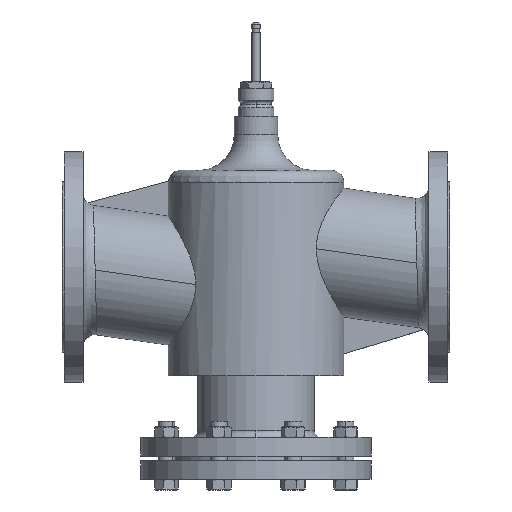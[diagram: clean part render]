
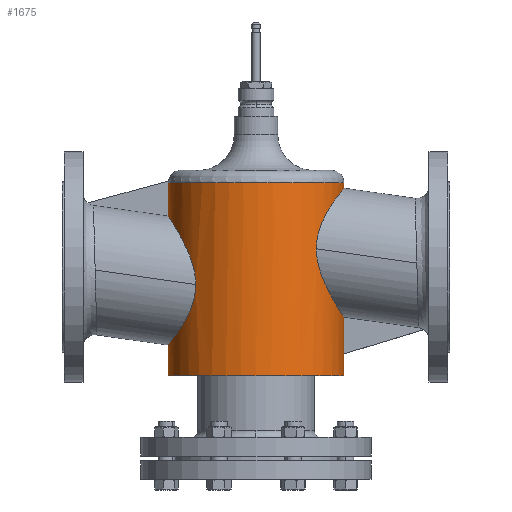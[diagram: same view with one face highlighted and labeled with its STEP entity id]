
A CAD part, left-side view. The second image highlights one B-rep face of the part: STEP entity #1675.
In plain terms, the highlighted cylindrical face has radius 108.672 mm (diameter 217.344 mm), a partial arc.
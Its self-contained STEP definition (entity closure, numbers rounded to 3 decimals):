
#477=FACE_OUTER_BOUND('',#2414,.T.);
#854=CYLINDRICAL_SURFACE('',#7137,108.672);
#981=ELLIPSE('',#7134,113.596,108.672);
#993=B_SPLINE_CURVE_WITH_KNOTS('',3,(#10041,#10042,#10043,#10044,#10045,
#10046,#10047,#10048,#10049,#10050,#10051,#10052,#10053,#10054,#10055,#10056),
 .UNSPECIFIED.,.F.,.F.,(4,2,2,2,2,2,2,4),(0.,0.125,0.25,0.375,
0.5,0.75,0.875,1.),.UNSPECIFIED.);
#997=B_SPLINE_CURVE_WITH_KNOTS('',3,(#10107,#10108,#10109,#10110,#10111,
#10112,#10113,#10114,#10115,#10116,#10117,#10118,#10119,#10120,#10121,#10122,
#10123,#10124),.UNSPECIFIED.,.F.,.F.,(4,2,2,2,2,2,2,2,4),(0.,0.125,0.25,
0.375,0.5,0.625,0.75,0.875,1.),.UNSPECIFIED.);
#1011=B_SPLINE_CURVE_WITH_KNOTS('',3,(#10818,#10819,#10820,#10821,#10822,
#10823,#10824,#10825,#10826,#10827,#10828,#10829,#10830,#10831,#10832,#10833),
 .UNSPECIFIED.,.F.,.F.,(4,2,2,2,2,2,2,4),(0.,0.125,0.25,0.375,0.5,0.75,0.875,
1.),.UNSPECIFIED.);
#1012=B_SPLINE_CURVE_WITH_KNOTS('',3,(#10839,#10840,#10841,#10842,#10843,
#10844,#10845,#10846,#10847,#10848,#10849,#10850,#10851,#10852,#10853,#10854,
#10855,#10856),.UNSPECIFIED.,.F.,.F.,(4,2,2,2,2,2,2,2,4),(0.,0.125,0.25,
0.375,0.5,0.625,0.75,0.875,1.),.UNSPECIFIED.);
#1020=LINE('',#9919,#1339);
#1022=LINE('',#9961,#1341);
#1024=LINE('',#10003,#1343);
#1034=LINE('',#10478,#1353);
#1038=LINE('',#10869,#1357);
#1339=VECTOR('',#7929,1.);
#1341=VECTOR('',#7933,1.);
#1343=VECTOR('',#7937,1.);
#1353=VECTOR('',#7971,1.);
#1357=VECTOR('',#7995,1.);
#1675=ADVANCED_FACE('',(#477),#854,.T.);
#2414=EDGE_LOOP('',(#3034,#3035,#3036,#3037,#3038,#3039,#3040,#3041,#3042,
#3043,#3044,#3045));
#3034=ORIENTED_EDGE('',*,*,#5694,.T.);
#3035=ORIENTED_EDGE('',*,*,#5683,.F.);
#3036=ORIENTED_EDGE('',*,*,#5704,.T.);
#3037=ORIENTED_EDGE('',*,*,#5749,.F.);
#3038=ORIENTED_EDGE('',*,*,#5750,.F.);
#3039=ORIENTED_EDGE('',*,*,#5742,.T.);
#3040=ORIENTED_EDGE('',*,*,#5723,.T.);
#3041=ORIENTED_EDGE('',*,*,#5699,.T.);
#3042=ORIENTED_EDGE('',*,*,#5708,.F.);
#3043=ORIENTED_EDGE('',*,*,#5734,.T.);
#3044=ORIENTED_EDGE('',*,*,#5715,.T.);
#3045=ORIENTED_EDGE('',*,*,#5745,.T.);
#5006=VERTEX_POINT('',#9835);
#5007=VERTEX_POINT('',#9836);
#5018=VERTEX_POINT('',#9920);
#5022=VERTEX_POINT('',#9960);
#5023=VERTEX_POINT('',#9962);
#5027=VERTEX_POINT('',#10002);
#5031=VERTEX_POINT('',#10017);
#5035=VERTEX_POINT('',#10039);
#5037=VERTEX_POINT('',#10057);
#5042=VERTEX_POINT('',#10088);
#5053=VERTEX_POINT('',#10834);
#5054=VERTEX_POINT('',#10866);
#5683=EDGE_CURVE('',#5007,#5006,#6725,.T.);
#5694=EDGE_CURVE('',#5018,#5006,#1020,.T.);
#5699=EDGE_CURVE('',#5023,#5022,#1022,.T.);
#5704=EDGE_CURVE('',#5007,#5027,#1024,.T.);
#5708=EDGE_CURVE('',#5031,#5022,#6732,.T.);
#5715=EDGE_CURVE('',#5037,#5035,#993,.T.);
#5723=EDGE_CURVE('',#5042,#5023,#997,.T.);
#5734=EDGE_CURVE('',#5031,#5037,#1034,.T.);
#5742=EDGE_CURVE('',#5053,#5042,#1011,.T.);
#5745=EDGE_CURVE('',#5035,#5018,#1012,.T.);
#5749=EDGE_CURVE('',#5054,#5027,#981,.T.);
#5750=EDGE_CURVE('',#5053,#5054,#1038,.T.);
#6725=CIRCLE('',#7106,108.672);
#6732=CIRCLE('',#7116,108.672);
#7106=AXIS2_PLACEMENT_3D('',#9837,#7915,#7916);
#7116=AXIS2_PLACEMENT_3D('',#10018,#7942,#7943);
#7134=AXIS2_PLACEMENT_3D('',#10867,#7991,#7992);
#7137=AXIS2_PLACEMENT_3D('',#10871,#7998,#7999);
#7915=DIRECTION('',(0.,0.,-1.));
#7916=DIRECTION('',(-1.,0.,0.));
#7929=DIRECTION('',(0.,0.,-1.));
#7933=DIRECTION('',(0.,0.,1.));
#7937=DIRECTION('',(0.,0.,1.));
#7942=DIRECTION('',(0.,0.,1.));
#7943=DIRECTION('',(1.,0.,0.));
#7971=DIRECTION('',(0.,0.,-1.));
#7991=DIRECTION('',(0.,0.291,0.957));
#7992=DIRECTION('',(0.,0.957,-0.291));
#7995=DIRECTION('',(0.,0.,-1.));
#7998=DIRECTION('',(0.,0.,-1.));
#7999=DIRECTION('',(0.,-1.,0.));
#9835=CARTESIAN_POINT('',(0.,588.672,-134.454));
#9836=CARTESIAN_POINT('',(0.,371.328,-134.454));
#9837=CARTESIAN_POINT('',(0.,480.,-134.454));
#9919=CARTESIAN_POINT('',(0.,588.672,-96.697));
#9920=CARTESIAN_POINT('',(0.,588.672,-96.697));
#9960=CARTESIAN_POINT('',(0.,371.328,104.373));
#9961=CARTESIAN_POINT('',(0.,371.328,97.456));
#9962=CARTESIAN_POINT('',(0.,371.328,97.456));
#10002=CARTESIAN_POINT('',(0.,371.328,-107.698));
#10003=CARTESIAN_POINT('',(0.,371.328,-133.454));
#10017=CARTESIAN_POINT('',(-5.998,588.507,104.373));
#10018=CARTESIAN_POINT('',(0.,480.,104.373));
#10039=CARTESIAN_POINT('',(-79.046,554.574,-21.715));
#10041=CARTESIAN_POINT('',(-5.998,588.507,62.743));
#10042=CARTESIAN_POINT('',(-11.351,588.211,62.29));
#10043=CARTESIAN_POINT('',(-16.496,587.532,61.25));
#10044=CARTESIAN_POINT('',(-26.423,585.532,58.136));
#10045=CARTESIAN_POINT('',(-31.234,584.193,56.032));
#10046=CARTESIAN_POINT('',(-40.102,581.111,51.063));
#10047=CARTESIAN_POINT('',(-44.236,579.353,48.172));
#10048=CARTESIAN_POINT('',(-51.884,575.582,41.718));
#10049=CARTESIAN_POINT('',(-55.33,573.605,38.218));
#10050=CARTESIAN_POINT('',(-64.719,567.614,26.942));
#10051=CARTESIAN_POINT('',(-69.776,563.451,18.279));
#10052=CARTESIAN_POINT('',(-75.1,558.584,4.23));
#10053=CARTESIAN_POINT('',(-76.516,557.181,-0.657));
#10054=CARTESIAN_POINT('',(-78.506,555.156,-10.997));
#10055=CARTESIAN_POINT('',(-79.046,554.574,-16.323));
#10056=CARTESIAN_POINT('',(-79.046,554.574,-21.715));
#10057=CARTESIAN_POINT('',(-5.998,588.507,62.743));
#10088=CARTESIAN_POINT('',(-79.046,405.426,22.474));
#10107=CARTESIAN_POINT('',(-79.046,405.426,22.474));
#10108=CARTESIAN_POINT('',(-79.046,405.426,27.845));
#10109=CARTESIAN_POINT('',(-78.515,404.852,33.063));
#10110=CARTESIAN_POINT('',(-76.41,402.712,43.222));
#10111=CARTESIAN_POINT('',(-74.819,401.139,48.148));
#10112=CARTESIAN_POINT('',(-70.792,397.504,57.251));
#10113=CARTESIAN_POINT('',(-68.309,395.406,61.548));
#10114=CARTESIAN_POINT('',(-62.631,391.12,69.415));
#10115=CARTESIAN_POINT('',(-59.44,388.93,73.001));
#10116=CARTESIAN_POINT('',(-52.325,384.664,79.576));
#10117=CARTESIAN_POINT('',(-48.365,382.575,82.578));
#10118=CARTESIAN_POINT('',(-39.957,378.836,87.765));
#10119=CARTESIAN_POINT('',(-35.484,377.164,89.983));
#10120=CARTESIAN_POINT('',(-25.935,374.35,93.649));
#10121=CARTESIAN_POINT('',(-20.858,373.222,95.077));
#10122=CARTESIAN_POINT('',(-10.605,371.722,96.967));
#10123=CARTESIAN_POINT('',(-5.364,371.328,97.456));
#10124=CARTESIAN_POINT('',(0.,371.328,97.456));
#10478=CARTESIAN_POINT('',(-5.998,588.507,104.373));
#10818=CARTESIAN_POINT('',(-5.998,371.493,-61.984));
#10819=CARTESIAN_POINT('',(-11.351,371.789,-61.53));
#10820=CARTESIAN_POINT('',(-16.496,372.468,-60.491));
#10821=CARTESIAN_POINT('',(-26.423,374.468,-57.377));
#10822=CARTESIAN_POINT('',(-31.234,375.807,-55.272));
#10823=CARTESIAN_POINT('',(-40.102,378.889,-50.303));
#10824=CARTESIAN_POINT('',(-44.236,380.647,-47.413));
#10825=CARTESIAN_POINT('',(-51.884,384.418,-40.959));
#10826=CARTESIAN_POINT('',(-55.33,386.395,-37.458));
#10827=CARTESIAN_POINT('',(-64.719,392.386,-26.183));
#10828=CARTESIAN_POINT('',(-69.776,396.549,-17.52));
#10829=CARTESIAN_POINT('',(-75.1,401.416,-3.471));
#10830=CARTESIAN_POINT('',(-76.516,402.819,1.416));
#10831=CARTESIAN_POINT('',(-78.506,404.844,11.756));
#10832=CARTESIAN_POINT('',(-79.046,405.426,17.083));
#10833=CARTESIAN_POINT('',(-79.046,405.426,22.474));
#10834=CARTESIAN_POINT('',(-5.998,371.493,-61.984));
#10839=CARTESIAN_POINT('',(-79.046,554.574,-21.715));
#10840=CARTESIAN_POINT('',(-79.046,554.574,-27.085));
#10841=CARTESIAN_POINT('',(-78.515,555.148,-32.304));
#10842=CARTESIAN_POINT('',(-76.41,557.288,-42.462));
#10843=CARTESIAN_POINT('',(-74.819,558.861,-47.389));
#10844=CARTESIAN_POINT('',(-70.792,562.496,-56.492));
#10845=CARTESIAN_POINT('',(-68.309,564.594,-60.789));
#10846=CARTESIAN_POINT('',(-62.631,568.88,-68.656));
#10847=CARTESIAN_POINT('',(-59.44,571.07,-72.241));
#10848=CARTESIAN_POINT('',(-52.325,575.336,-78.816));
#10849=CARTESIAN_POINT('',(-48.365,577.425,-81.818));
#10850=CARTESIAN_POINT('',(-39.957,581.164,-87.005));
#10851=CARTESIAN_POINT('',(-35.484,582.836,-89.224));
#10852=CARTESIAN_POINT('',(-25.935,585.65,-92.889));
#10853=CARTESIAN_POINT('',(-20.858,586.778,-94.318));
#10854=CARTESIAN_POINT('',(-10.605,588.278,-96.207));
#10855=CARTESIAN_POINT('',(-5.364,588.672,-96.697));
#10856=CARTESIAN_POINT('',(0.,588.672,-96.697));
#10866=CARTESIAN_POINT('',(-5.998,371.493,-107.749));
#10867=CARTESIAN_POINT('',(0.,480.,-140.78));
#10869=CARTESIAN_POINT('',(-5.998,371.493,-61.984));
#10871=CARTESIAN_POINT('',(0.,480.,-7.041));
